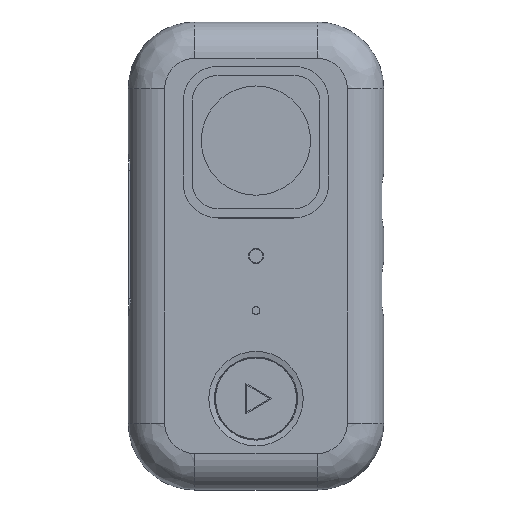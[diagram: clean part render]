
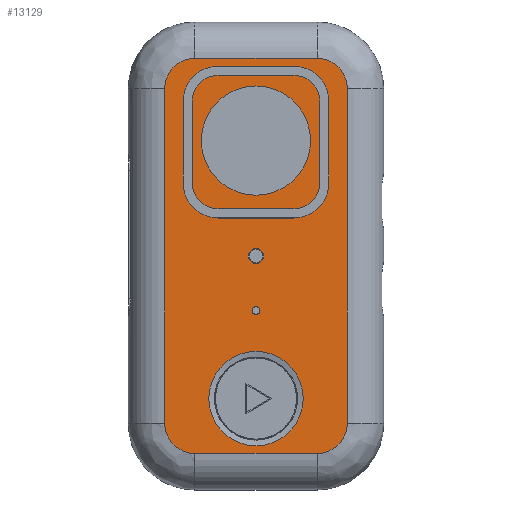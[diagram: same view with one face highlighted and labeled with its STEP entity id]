
A CAD part, top view. The second image highlights one B-rep face of the part: STEP entity #13129.
In plain terms, the highlighted planar face has unit normal (0, 0, 1).
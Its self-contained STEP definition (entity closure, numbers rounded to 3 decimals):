
#449=FACE_BOUND('',#2648,.T.);
#450=FACE_BOUND('',#2649,.T.);
#451=FACE_BOUND('',#2650,.T.);
#452=FACE_BOUND('',#2651,.T.);
#1134=CIRCLE('',#14411,15.55);
#1136=CIRCLE('',#14415,12.);
#1137=CIRCLE('',#14416,12.);
#1138=CIRCLE('',#14417,12.);
#1139=CIRCLE('',#14418,12.);
#1140=CIRCLE('',#14419,18.);
#1141=CIRCLE('',#14420,2.505);
#1142=CIRCLE('',#14421,1.301);
#1847=FACE_OUTER_BOUND('',#2647,.T.);
#2647=EDGE_LOOP('',(#10916,#10917,#10918,#10919,#10920,#10921,#10922,#10923));
#2648=EDGE_LOOP('',(#10924));
#2649=EDGE_LOOP('',(#10925));
#2650=EDGE_LOOP('',(#10926));
#2651=EDGE_LOOP('',(#10927));
#3702=LINE('',#24226,#4833);
#3705=LINE('',#24241,#4836);
#3706=LINE('',#24245,#4837);
#3707=LINE('',#24249,#4838);
#4833=VECTOR('',#17392,10.);
#4836=VECTOR('',#17409,10.);
#4837=VECTOR('',#17412,10.);
#4838=VECTOR('',#17417,10.);
#6068=VERTEX_POINT('',#24223);
#6069=VERTEX_POINT('',#24225);
#6070=VERTEX_POINT('',#24229);
#6072=VERTEX_POINT('',#24237);
#6073=VERTEX_POINT('',#24238);
#6074=VERTEX_POINT('',#24240);
#6075=VERTEX_POINT('',#24242);
#6076=VERTEX_POINT('',#24244);
#6077=VERTEX_POINT('',#24247);
#6078=VERTEX_POINT('',#24250);
#6079=VERTEX_POINT('',#24252);
#6080=VERTEX_POINT('',#24254);
#7756=EDGE_CURVE('',#6068,#6069,#3702,.T.);
#7758=EDGE_CURVE('',#6070,#6070,#1134,.T.);
#7762=EDGE_CURVE('',#6072,#6073,#1136,.T.);
#7763=EDGE_CURVE('',#6074,#6072,#3705,.T.);
#7764=EDGE_CURVE('',#6075,#6074,#1137,.T.);
#7765=EDGE_CURVE('',#6076,#6075,#3706,.T.);
#7766=EDGE_CURVE('',#6069,#6076,#1138,.T.);
#7767=EDGE_CURVE('',#6077,#6068,#1139,.T.);
#7768=EDGE_CURVE('',#6073,#6077,#3707,.T.);
#7769=EDGE_CURVE('',#6078,#6078,#1140,.T.);
#7770=EDGE_CURVE('',#6079,#6079,#1141,.T.);
#7771=EDGE_CURVE('',#6080,#6080,#1142,.T.);
#10916=ORIENTED_EDGE('',*,*,#7762,.F.);
#10917=ORIENTED_EDGE('',*,*,#7763,.F.);
#10918=ORIENTED_EDGE('',*,*,#7764,.F.);
#10919=ORIENTED_EDGE('',*,*,#7765,.F.);
#10920=ORIENTED_EDGE('',*,*,#7766,.F.);
#10921=ORIENTED_EDGE('',*,*,#7756,.F.);
#10922=ORIENTED_EDGE('',*,*,#7767,.F.);
#10923=ORIENTED_EDGE('',*,*,#7768,.F.);
#10924=ORIENTED_EDGE('',*,*,#7769,.T.);
#10925=ORIENTED_EDGE('',*,*,#7770,.T.);
#10926=ORIENTED_EDGE('',*,*,#7771,.T.);
#10927=ORIENTED_EDGE('',*,*,#7758,.F.);
#12519=PLANE('',#14414);
#13129=ADVANCED_FACE('',(#1847,#449,#450,#451,#452),#12519,.T.);
#14411=AXIS2_PLACEMENT_3D('',#24230,#17397,#17398);
#14414=AXIS2_PLACEMENT_3D('',#24236,#17405,#17406);
#14415=AXIS2_PLACEMENT_3D('',#24239,#17407,#17408);
#14416=AXIS2_PLACEMENT_3D('',#24243,#17410,#17411);
#14417=AXIS2_PLACEMENT_3D('',#24246,#17413,#17414);
#14418=AXIS2_PLACEMENT_3D('',#24248,#17415,#17416);
#14419=AXIS2_PLACEMENT_3D('',#24251,#17418,#17419);
#14420=AXIS2_PLACEMENT_3D('',#24253,#17420,#17421);
#14421=AXIS2_PLACEMENT_3D('',#24255,#17422,#17423);
#17392=DIRECTION('',(0.,1.,0.));
#17397=DIRECTION('center_axis',(0.,0.,1.));
#17398=DIRECTION('ref_axis',(1.,0.,0.));
#17405=DIRECTION('center_axis',(0.,0.,1.));
#17406=DIRECTION('ref_axis',(1.,0.,0.));
#17407=DIRECTION('center_axis',(0.,0.,-1.));
#17408=DIRECTION('ref_axis',(0.707,-0.707,0.));
#17409=DIRECTION('',(0.,-1.,0.));
#17410=DIRECTION('center_axis',(0.,0.,-1.));
#17411=DIRECTION('ref_axis',(0.707,0.707,0.));
#17412=DIRECTION('',(1.,0.,0.));
#17413=DIRECTION('center_axis',(0.,0.,-1.));
#17414=DIRECTION('ref_axis',(-0.707,0.707,0.));
#17415=DIRECTION('center_axis',(0.,0.,-1.));
#17416=DIRECTION('ref_axis',(-0.707,-0.707,0.));
#17417=DIRECTION('',(-1.,0.,0.));
#17418=DIRECTION('center_axis',(0.,0.,-1.));
#17419=DIRECTION('ref_axis',(-1.,0.,0.));
#17420=DIRECTION('center_axis',(0.,0.,-1.));
#17421=DIRECTION('ref_axis',(1.,0.,0.));
#17422=DIRECTION('center_axis',(0.,0.,-1.));
#17423=DIRECTION('ref_axis',(1.,0.,0.));
#24223=CARTESIAN_POINT('',(-32.,-55.,0.));
#24225=CARTESIAN_POINT('',(-32.,55.,0.));
#24226=CARTESIAN_POINT('',(-32.,37.5,0.));
#24229=CARTESIAN_POINT('',(-15.55,-47.,0.));
#24230=CARTESIAN_POINT('Origin',(0.,-47.,0.));
#24236=CARTESIAN_POINT('Origin',(0.,0.,0.));
#24237=CARTESIAN_POINT('',(32.,-55.,0.));
#24238=CARTESIAN_POINT('',(20.,-67.,0.));
#24239=CARTESIAN_POINT('Origin',(20.,-55.,0.));
#24240=CARTESIAN_POINT('',(32.,55.,0.));
#24241=CARTESIAN_POINT('',(32.,-37.5,0.));
#24242=CARTESIAN_POINT('',(20.,67.,0.));
#24243=CARTESIAN_POINT('Origin',(20.,55.,0.));
#24244=CARTESIAN_POINT('',(-20.,67.,0.));
#24245=CARTESIAN_POINT('',(20.,67.,0.));
#24246=CARTESIAN_POINT('Origin',(-20.,55.,0.));
#24247=CARTESIAN_POINT('',(-20.,-67.,0.));
#24248=CARTESIAN_POINT('Origin',(-20.,-55.,0.));
#24249=CARTESIAN_POINT('',(-20.,-67.,0.));
#24250=CARTESIAN_POINT('',(17.986,38.,0.));
#24251=CARTESIAN_POINT('Origin',(-0.014,38.,0.));
#24252=CARTESIAN_POINT('',(-2.505,0.,0.));
#24253=CARTESIAN_POINT('Origin',(0.,0.,0.));
#24254=CARTESIAN_POINT('',(-1.301,-18.001,0.));
#24255=CARTESIAN_POINT('Origin',(0.,-18.001,
0.));
